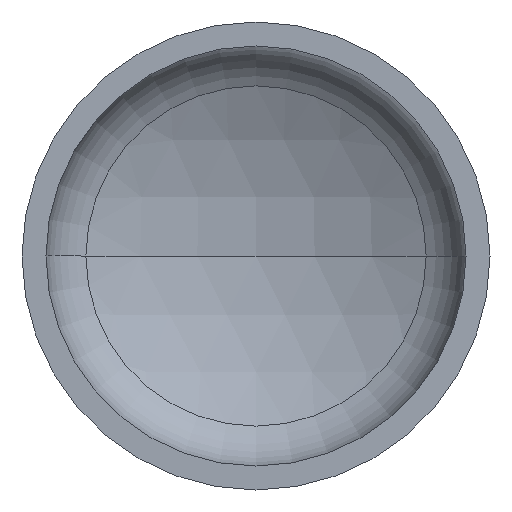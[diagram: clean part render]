
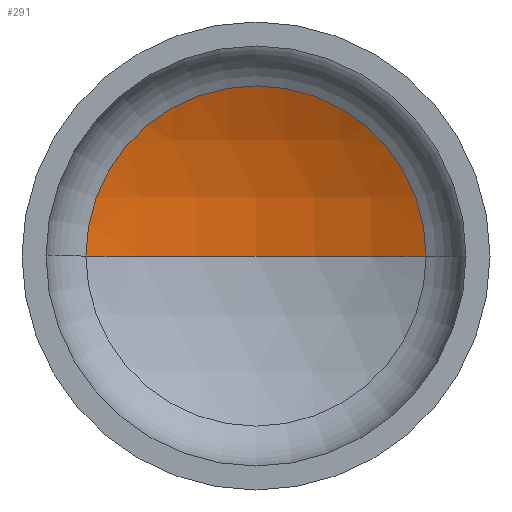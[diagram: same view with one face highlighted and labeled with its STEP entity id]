
A CAD part, front view. The second image highlights one B-rep face of the part: STEP entity #291.
In plain terms, the highlighted spherical face has radius 640 mm.
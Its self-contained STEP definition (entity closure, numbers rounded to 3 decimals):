
#4 = ORIENTED_EDGE ( 'NONE', *, *, #334, .T. ) ;
#9 = AXIS2_PLACEMENT_3D ( 'NONE', #256, #169, #373 ) ;
#25 = AXIS2_PLACEMENT_3D ( 'NONE', #162, #171, #167 ) ;
#27 = EDGE_LOOP ( 'NONE', ( #84, #4, #48 ) ) ;
#28 = AXIS2_PLACEMENT_3D ( 'NONE', #122, #129, #136 ) ;
#37 = AXIS2_PLACEMENT_3D ( 'NONE', #190, #204, #249 ) ;
#48 = ORIENTED_EDGE ( 'NONE', *, *, #355, .T. ) ;
#78 = VERTEX_POINT ( 'NONE', #242 ) ;
#84 = ORIENTED_EDGE ( 'NONE', *, *, #340, .F. ) ;
#86 = VERTEX_POINT ( 'NONE', #206 ) ;
#122 = CARTESIAN_POINT ( 'NONE',  ( 0., -328.769, 0. ) ) ;
#129 = DIRECTION ( 'NONE',  ( 0., 0., -1. ) ) ;
#130 = VERTEX_POINT ( 'NONE', #292 ) ;
#136 = DIRECTION ( 'NONE',  ( -1., 0., 0. ) ) ;
#162 = CARTESIAN_POINT ( 'NONE',  ( 0., -328.769, 0. ) ) ;
#167 = DIRECTION ( 'NONE',  ( 1., 0., 0. ) ) ;
#169 = DIRECTION ( 'NONE',  ( 0., -1., 0. ) ) ;
#171 = DIRECTION ( 'NONE',  ( 0., 0., 1. ) ) ;
#190 = CARTESIAN_POINT ( 'NONE',  ( 0., -328.769, 0. ) ) ;
#204 = DIRECTION ( 'NONE',  ( 0., 0., -1. ) ) ;
#205 = CIRCLE ( 'NONE', #25, 640. ) ;
#206 = CARTESIAN_POINT ( 'NONE',  ( 0., 311.231, 0. ) ) ;
#213 = FACE_OUTER_BOUND ( 'NONE', #27, .T. ) ;
#242 = CARTESIAN_POINT ( 'NONE',  ( -290.796, 241.352, 0. ) ) ;
#249 = DIRECTION ( 'NONE',  ( -1., 0., 0. ) ) ;
#256 = CARTESIAN_POINT ( 'NONE',  ( 0., 241.352, 0. ) ) ;
#258 = CIRCLE ( 'NONE', #9, 290.796 ) ;
#291 = ADVANCED_FACE ( 'NONE', ( #213 ), #403, .F. ) ;
#292 = CARTESIAN_POINT ( 'NONE',  ( 290.796, 241.352, 0. ) ) ;
#331 = CIRCLE ( 'NONE', #28, 640. ) ;
#334 = EDGE_CURVE ( 'NONE', #86, #130, #331, .T. ) ;
#340 = EDGE_CURVE ( 'NONE', #86, #78, #205, .T. ) ;
#355 = EDGE_CURVE ( 'NONE', #130, #78, #258, .T. ) ;
#373 = DIRECTION ( 'NONE',  ( 1., 0., 0. ) ) ;
#403 = SPHERICAL_SURFACE ( 'NONE', #37, 640. ) ;
